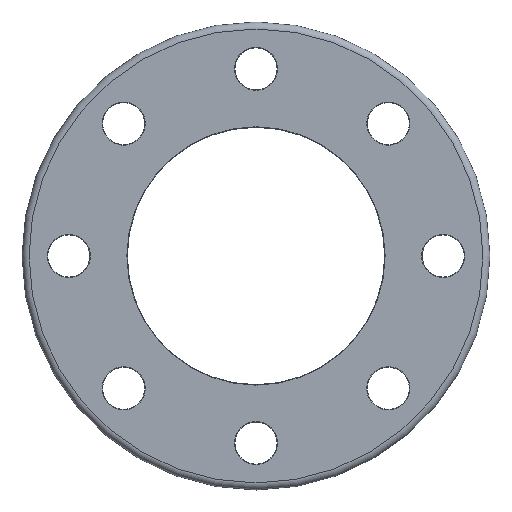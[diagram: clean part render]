
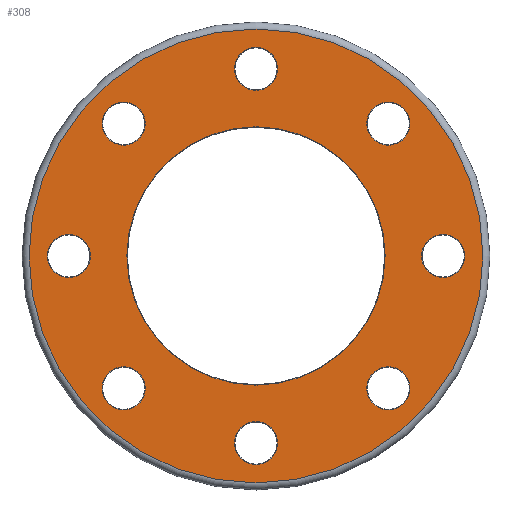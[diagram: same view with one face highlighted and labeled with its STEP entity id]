
A CAD part, top view. The second image highlights one B-rep face of the part: STEP entity #308.
In plain terms, the highlighted planar face has unit normal (0, 0, 1).
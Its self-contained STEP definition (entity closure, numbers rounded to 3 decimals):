
#25=PLANE('',#334);
#28=FACE_BOUND('',#90,.T.);
#29=FACE_BOUND('',#91,.T.);
#30=FACE_BOUND('',#92,.T.);
#31=FACE_BOUND('',#93,.T.);
#32=FACE_BOUND('',#94,.T.);
#33=FACE_BOUND('',#95,.T.);
#34=FACE_BOUND('',#96,.T.);
#35=FACE_BOUND('',#97,.T.);
#36=FACE_BOUND('',#98,.T.);
#66=FACE_OUTER_BOUND('',#89,.T.);
#89=EDGE_LOOP('',(#239));
#90=EDGE_LOOP('',(#240));
#91=EDGE_LOOP('',(#241));
#92=EDGE_LOOP('',(#242));
#93=EDGE_LOOP('',(#243));
#94=EDGE_LOOP('',(#244));
#95=EDGE_LOOP('',(#245));
#96=EDGE_LOOP('',(#246));
#97=EDGE_LOOP('',(#247));
#98=EDGE_LOOP('',(#248));
#148=CIRCLE('',#333,55.2);
#149=CIRCLE('',#335,97.);
#150=CIRCLE('',#336,9.2);
#151=CIRCLE('',#337,9.2);
#152=CIRCLE('',#338,9.2);
#153=CIRCLE('',#339,9.2);
#154=CIRCLE('',#340,9.2);
#155=CIRCLE('',#341,9.2);
#156=CIRCLE('',#342,9.2);
#157=CIRCLE('',#343,9.2);
#178=VERTEX_POINT('',#493);
#179=VERTEX_POINT('',#496);
#180=VERTEX_POINT('',#498);
#181=VERTEX_POINT('',#500);
#182=VERTEX_POINT('',#502);
#183=VERTEX_POINT('',#504);
#184=VERTEX_POINT('',#506);
#185=VERTEX_POINT('',#508);
#186=VERTEX_POINT('',#510);
#187=VERTEX_POINT('',#512);
#208=EDGE_CURVE('',#178,#178,#148,.T.);
#209=EDGE_CURVE('',#179,#179,#149,.T.);
#210=EDGE_CURVE('',#180,#180,#150,.T.);
#211=EDGE_CURVE('',#181,#181,#151,.T.);
#212=EDGE_CURVE('',#182,#182,#152,.T.);
#213=EDGE_CURVE('',#183,#183,#153,.T.);
#214=EDGE_CURVE('',#184,#184,#154,.T.);
#215=EDGE_CURVE('',#185,#185,#155,.T.);
#216=EDGE_CURVE('',#186,#186,#156,.T.);
#217=EDGE_CURVE('',#187,#187,#157,.T.);
#239=ORIENTED_EDGE('',*,*,#209,.F.);
#240=ORIENTED_EDGE('',*,*,#210,.F.);
#241=ORIENTED_EDGE('',*,*,#211,.F.);
#242=ORIENTED_EDGE('',*,*,#212,.F.);
#243=ORIENTED_EDGE('',*,*,#213,.F.);
#244=ORIENTED_EDGE('',*,*,#214,.F.);
#245=ORIENTED_EDGE('',*,*,#215,.F.);
#246=ORIENTED_EDGE('',*,*,#216,.F.);
#247=ORIENTED_EDGE('',*,*,#217,.F.);
#248=ORIENTED_EDGE('',*,*,#208,.F.);
#308=ADVANCED_FACE('',(#66,#28,#29,#30,#31,#32,#33,#34,#35,#36),#25,.T.);
#333=AXIS2_PLACEMENT_3D('',#494,#389,#390);
#334=AXIS2_PLACEMENT_3D('',#495,#391,#392);
#335=AXIS2_PLACEMENT_3D('',#497,#393,#394);
#336=AXIS2_PLACEMENT_3D('',#499,#395,#396);
#337=AXIS2_PLACEMENT_3D('',#501,#397,#398);
#338=AXIS2_PLACEMENT_3D('',#503,#399,#400);
#339=AXIS2_PLACEMENT_3D('',#505,#401,#402);
#340=AXIS2_PLACEMENT_3D('',#507,#403,#404);
#341=AXIS2_PLACEMENT_3D('',#509,#405,#406);
#342=AXIS2_PLACEMENT_3D('',#511,#407,#408);
#343=AXIS2_PLACEMENT_3D('',#513,#409,#410);
#389=DIRECTION('center_axis',(0.,0.,1.));
#390=DIRECTION('ref_axis',(-1.,0.,0.));
#391=DIRECTION('center_axis',(0.,0.,1.));
#392=DIRECTION('ref_axis',(1.,0.,0.));
#393=DIRECTION('center_axis',(0.,0.,-1.));
#394=DIRECTION('ref_axis',(-1.,0.,0.));
#395=DIRECTION('center_axis',(0.,0.,1.));
#396=DIRECTION('ref_axis',(0.,1.,0.));
#397=DIRECTION('center_axis',(0.,0.,1.));
#398=DIRECTION('ref_axis',(1.,0.,0.));
#399=DIRECTION('center_axis',(0.,0.,1.));
#400=DIRECTION('ref_axis',(0.,-1.,0.));
#401=DIRECTION('center_axis',(0.,0.,1.));
#402=DIRECTION('ref_axis',(-1.,0.,0.));
#403=DIRECTION('center_axis',(0.,0.,1.));
#404=DIRECTION('ref_axis',(-0.707,-0.707,0.));
#405=DIRECTION('center_axis',(0.,0.,1.));
#406=DIRECTION('ref_axis',(0.707,-0.707,0.));
#407=DIRECTION('center_axis',(0.,0.,1.));
#408=DIRECTION('ref_axis',(0.707,0.707,0.));
#409=DIRECTION('center_axis',(0.,0.,1.));
#410=DIRECTION('ref_axis',(-0.707,0.707,0.));
#493=CARTESIAN_POINT('',(55.2,0.,20.));
#494=CARTESIAN_POINT('Origin',(0.,0.,20.));
#495=CARTESIAN_POINT('Origin',(0.,0.,
20.));
#496=CARTESIAN_POINT('',(97.,0.,20.));
#497=CARTESIAN_POINT('Origin',(0.,0.,20.));
#498=CARTESIAN_POINT('',(80.,-9.2,20.));
#499=CARTESIAN_POINT('Origin',(80.,0.,20.));
#500=CARTESIAN_POINT('',(-9.2,-80.,20.));
#501=CARTESIAN_POINT('Origin',(0.,-80.,20.));
#502=CARTESIAN_POINT('',(-80.,9.2,20.));
#503=CARTESIAN_POINT('Origin',(-80.,0.,20.));
#504=CARTESIAN_POINT('',(9.2,80.,20.));
#505=CARTESIAN_POINT('Origin',(0.,80.,20.));
#506=CARTESIAN_POINT('',(-50.063,63.074,20.));
#507=CARTESIAN_POINT('Origin',(-56.569,56.569,20.));
#508=CARTESIAN_POINT('',(-63.074,-50.063,20.));
#509=CARTESIAN_POINT('Origin',(-56.569,-56.569,20.));
#510=CARTESIAN_POINT('',(50.063,-63.074,20.));
#511=CARTESIAN_POINT('Origin',(56.569,-56.569,20.));
#512=CARTESIAN_POINT('',(63.074,50.063,20.));
#513=CARTESIAN_POINT('Origin',(56.569,56.569,20.));
